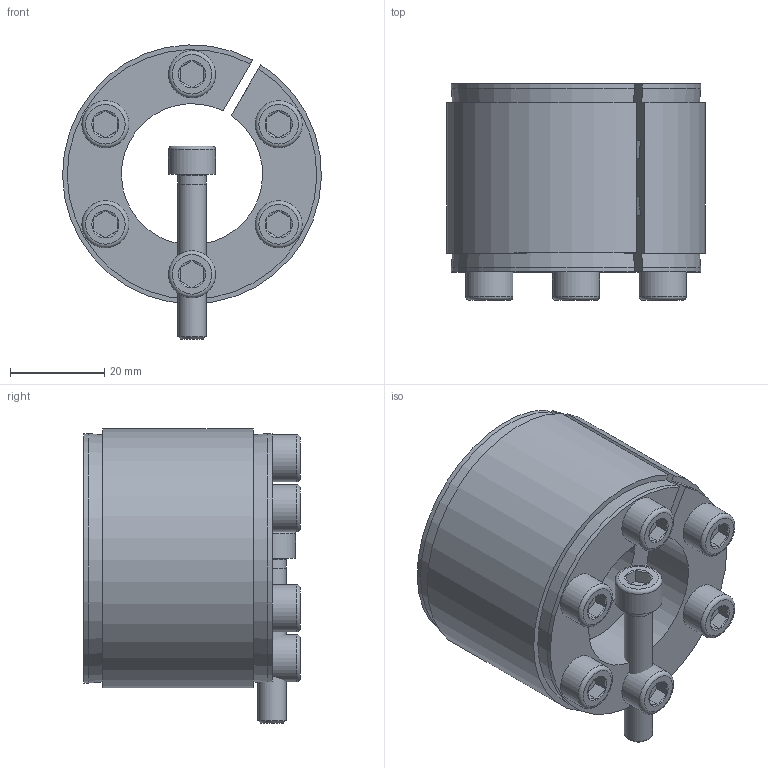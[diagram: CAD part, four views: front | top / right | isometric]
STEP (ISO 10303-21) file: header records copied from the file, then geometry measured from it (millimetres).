
FILE_DESCRIPTION( ( 'Unknown' ), '1' );
FILE_NAME( 'C:/Dokumente und Einstellungen/Sven/Desktop/homepage/cad - homepage/KBS11/KBS 11 - 30 x 55.stp', 'Unknown', ( 'Unknown' ), ( 'Unknown' ), 'XStep 1.0', 'Unknown', ' ' );
FILE_SCHEMA( ( 'automotive_design' ) );
Length unit declared in the file: millimetre
Products named in the file (3): Assem1; KBS 11 - 30 x 55; ISO EN DIN 4762 M6x35
Bounding box: 54.99 x 46 x 62.49 mm (x, y, z)
Volume: 106626.4 mm3; surface area: 53365.3 mm2
Topology: 9 solids, 9 shells, 251 faces, 541 edges, 336 vertices
Faces by surface type: plane 104, cylinder 76, cone 57, torus 14
Full cylindrical faces by diameter (mm): 5 x7, 6 x50, 10 x7
Entity records: 2210 total; most frequent: CARTESIAN_POINT 361, DIRECTION 324, ORIENTED_EDGE 250, AXIS2_PLACEMENT_3D 142, EDGE_LOOP 128, EDGE_CURVE 125, VERTEX_POINT 95, FACE_OUTER_BOUND 87
